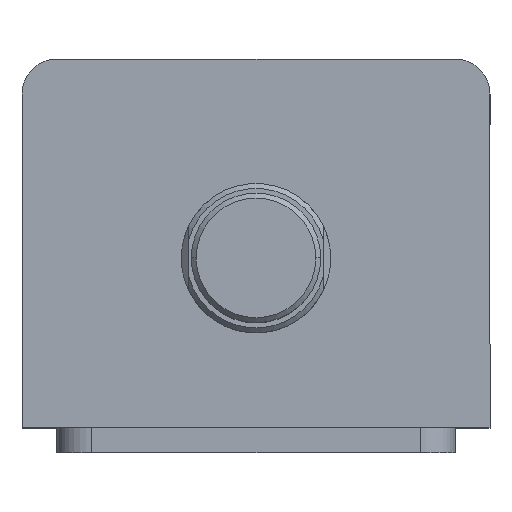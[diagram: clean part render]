
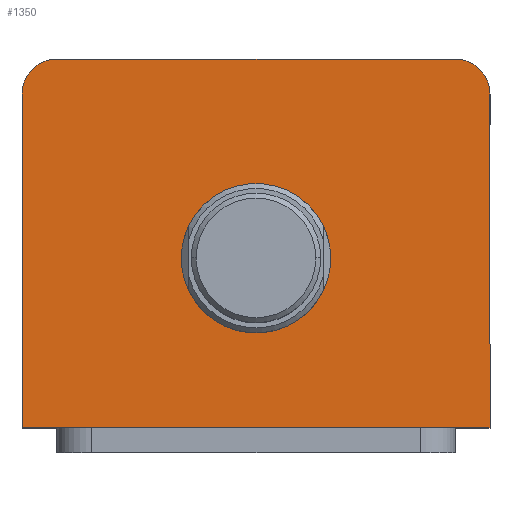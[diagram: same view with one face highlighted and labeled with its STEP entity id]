
A CAD part, top view. The second image highlights one B-rep face of the part: STEP entity #1350.
In plain terms, the highlighted planar face has unit normal (0, 0, 1).
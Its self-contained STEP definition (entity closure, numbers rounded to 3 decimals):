
#15 = VECTOR ( 'NONE', #1103, 1000. ) ;
#81 = FACE_BOUND ( 'NONE', #2833, .T. ) ;
#84 = FACE_OUTER_BOUND ( 'NONE', #2837, .T. ) ;
#217 = LINE ( 'NONE', #1832, #220 ) ;
#220 = VECTOR ( 'NONE', #1828, 1000. ) ;
#353 = VERTEX_POINT ( 'NONE', #2097 ) ;
#354 = VERTEX_POINT ( 'NONE', #2146 ) ;
#402 = AXIS2_PLACEMENT_3D ( 'NONE', #2141, #2140, #2139 ) ;
#416 = EDGE_CURVE ( 'NONE', #354, #2637, #2509, .T. ) ;
#420 = EDGE_CURVE ( 'NONE', #2637, #2616, #2513, .T. ) ;
#428 = EDGE_CURVE ( 'NONE', #353, #2695, #2522, .T. ) ;
#437 = EDGE_CURVE ( 'NONE', #2695, #2653, #2535, .T. ) ;
#454 = EDGE_CURVE ( 'NONE', #2686, #2679, #2568, .T. ) ;
#462 = EDGE_CURVE ( 'NONE', #2616, #353, #2579, .T. ) ;
#525 = CARTESIAN_POINT ( 'NONE',  ( 40., 37., 75. ) ) ;
#543 = CARTESIAN_POINT ( 'NONE',  ( 47., 30., 75. ) ) ;
#581 = CARTESIAN_POINT ( 'NONE',  ( -47., -37., 75. ) ) ;
#623 = CARTESIAN_POINT ( 'NONE',  ( -47., 30., 75. ) ) ;
#647 = CARTESIAN_POINT ( 'NONE',  ( 15., -3., 75. ) ) ;
#715 = CARTESIAN_POINT ( 'NONE',  ( -15., -3., 75. ) ) ;
#759 = ORIENTED_EDGE ( 'NONE', *, *, #420, .T. ) ;
#760 = ORIENTED_EDGE ( 'NONE', *, *, #416, .T. ) ;
#761 = ORIENTED_EDGE ( 'NONE', *, *, #1930, .T. ) ;
#762 = ORIENTED_EDGE ( 'NONE', *, *, #437, .T. ) ;
#778 = AXIS2_PLACEMENT_3D ( 'NONE', #884, #1218, #1217 ) ;
#802 = AXIS2_PLACEMENT_3D ( 'NONE', #1179, #1173, #1168 ) ;
#809 = AXIS2_PLACEMENT_3D ( 'NONE', #2114, #2113, #2112 ) ;
#884 = CARTESIAN_POINT ( 'NONE',  ( 0., 0., 75. ) ) ;
#1103 = DIRECTION ( 'NONE',  ( -1., 0., 0. ) ) ;
#1108 = CARTESIAN_POINT ( 'NONE',  ( -47., 37., 75. ) ) ;
#1168 = DIRECTION ( 'NONE',  ( 1., 0., 0. ) ) ;
#1173 = DIRECTION ( 'NONE',  ( 0., 0., 1. ) ) ;
#1179 = CARTESIAN_POINT ( 'NONE',  ( 0., -3., 75. ) ) ;
#1217 = DIRECTION ( 'NONE',  ( 1., 0., 0. ) ) ;
#1218 = DIRECTION ( 'NONE',  ( 0., 0., 1. ) ) ;
#1220 = PLANE ( 'NONE',  #778 ) ;
#1242 = ORIENTED_EDGE ( 'NONE', *, *, #428, .T. ) ;
#1243 = ORIENTED_EDGE ( 'NONE', *, *, #462, .T. ) ;
#1244 = ORIENTED_EDGE ( 'NONE', *, *, #2275, .F. ) ;
#1245 = ORIENTED_EDGE ( 'NONE', *, *, #454, .F. ) ;
#1350 = ADVANCED_FACE ( 'NONE', ( #81, #84 ), #1220, .T. ) ;
#1527 = DIRECTION ( 'NONE',  ( 1., 0., 0. ) ) ;
#1528 = DIRECTION ( 'NONE',  ( 0., 0., 1. ) ) ;
#1529 = CARTESIAN_POINT ( 'NONE',  ( 0., -3., 75. ) ) ;
#1828 = DIRECTION ( 'NONE',  ( 1., 0., 0. ) ) ;
#1832 = CARTESIAN_POINT ( 'NONE',  ( -47., -37., 75. ) ) ;
#1872 = AXIS2_PLACEMENT_3D ( 'NONE', #1529, #1528, #1527 ) ;
#1930 = EDGE_CURVE ( 'NONE', #2653, #354, #217, .T. ) ;
#2079 = DIRECTION ( 'NONE',  ( 0., -1., 0. ) ) ;
#2080 = CARTESIAN_POINT ( 'NONE',  ( -47., 37., 75. ) ) ;
#2097 = CARTESIAN_POINT ( 'NONE',  ( -40., 37., 75. ) ) ;
#2112 = DIRECTION ( 'NONE',  ( 1., 0., 0. ) ) ;
#2113 = DIRECTION ( 'NONE',  ( 0., 0., 1. ) ) ;
#2114 = CARTESIAN_POINT ( 'NONE',  ( -40., 30., 75. ) ) ;
#2139 = DIRECTION ( 'NONE',  ( 1., 0., 0. ) ) ;
#2140 = DIRECTION ( 'NONE',  ( 0., 0., 1. ) ) ;
#2141 = CARTESIAN_POINT ( 'NONE',  ( 40., 30., 75. ) ) ;
#2146 = CARTESIAN_POINT ( 'NONE',  ( 47., -37., 75. ) ) ;
#2154 = DIRECTION ( 'NONE',  ( 0., 1., 0. ) ) ;
#2155 = CARTESIAN_POINT ( 'NONE',  ( 47., 37., 75. ) ) ;
#2275 = EDGE_CURVE ( 'NONE', #2679, #2686, #2972, .T. ) ;
#2509 = LINE ( 'NONE', #2155, #2512 ) ;
#2512 = VECTOR ( 'NONE', #2154, 1000. ) ;
#2513 = CIRCLE ( 'NONE', #402, 7. ) ;
#2522 = CIRCLE ( 'NONE', #809, 7. ) ;
#2535 = LINE ( 'NONE', #2080, #2538 ) ;
#2538 = VECTOR ( 'NONE', #2079, 1000. ) ;
#2568 = CIRCLE ( 'NONE', #802, 15. ) ;
#2579 = LINE ( 'NONE', #1108, #15 ) ;
#2616 = VERTEX_POINT ( 'NONE', #525 ) ;
#2637 = VERTEX_POINT ( 'NONE', #543 ) ;
#2653 = VERTEX_POINT ( 'NONE', #581 ) ;
#2679 = VERTEX_POINT ( 'NONE', #715 ) ;
#2686 = VERTEX_POINT ( 'NONE', #647 ) ;
#2695 = VERTEX_POINT ( 'NONE', #623 ) ;
#2833 = EDGE_LOOP ( 'NONE', ( #1245, #1244 ) ) ;
#2837 = EDGE_LOOP ( 'NONE', ( #1243, #1242, #762, #761, #760, #759 ) ) ;
#2972 = CIRCLE ( 'NONE', #1872, 15. ) ;
